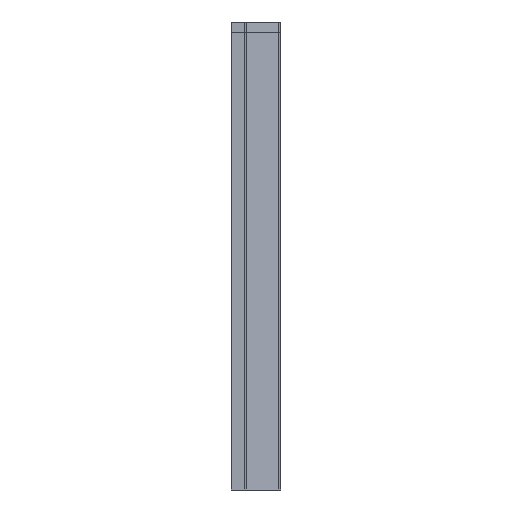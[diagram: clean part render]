
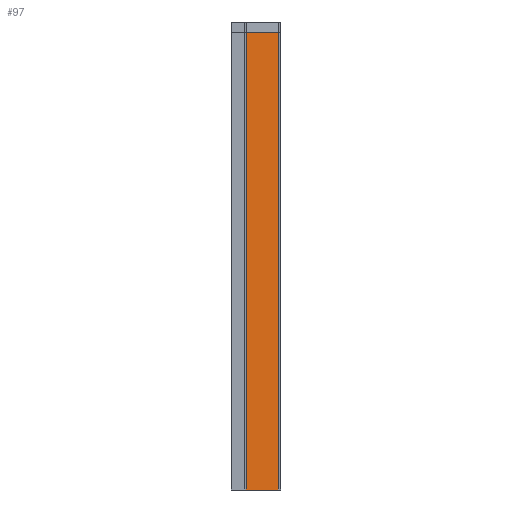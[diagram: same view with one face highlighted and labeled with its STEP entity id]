
A CAD part, left-side view. The second image highlights one B-rep face of the part: STEP entity #97.
In plain terms, the highlighted planar face has unit normal (-0.731, -0.682, 0).
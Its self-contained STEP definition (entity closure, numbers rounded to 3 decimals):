
#97=ADVANCED_FACE('',(#181),#1505,.T.);
#181=FACE_OUTER_BOUND('',#273,.T.);
#273=EDGE_LOOP('',(#575,#576,#577,#578));
#575=ORIENTED_EDGE('',*,*,#932,.T.);
#576=ORIENTED_EDGE('',*,*,#933,.T.);
#577=ORIENTED_EDGE('',*,*,#934,.F.);
#578=ORIENTED_EDGE('',*,*,#930,.F.);
#930=EDGE_CURVE('',#1367,#1368,#1170,.T.);
#932=EDGE_CURVE('',#1367,#1369,#1172,.T.);
#933=EDGE_CURVE('',#1369,#1370,#1173,.T.);
#934=EDGE_CURVE('',#1368,#1370,#1174,.T.);
#1170=(
BOUNDED_CURVE()
B_SPLINE_CURVE(1,(#2688,#2689),.UNSPECIFIED.,.F.,.F.)
B_SPLINE_CURVE_WITH_KNOTS((2,2),(0.,305.),.UNSPECIFIED.)
CURVE()
GEOMETRIC_REPRESENTATION_ITEM()
RATIONAL_B_SPLINE_CURVE((1.,1.))
REPRESENTATION_ITEM('')
);
#1172=(
BOUNDED_CURVE()
B_SPLINE_CURVE(2,(#2693,#2694,#2695),.UNSPECIFIED.,.F.,.F.)
B_SPLINE_CURVE_WITH_KNOTS((3,3),(-497.354,-468.276),
 .UNSPECIFIED.)
CURVE()
GEOMETRIC_REPRESENTATION_ITEM()
RATIONAL_B_SPLINE_CURVE((1.,1.,1.))
REPRESENTATION_ITEM('')
);
#1173=(
BOUNDED_CURVE()
B_SPLINE_CURVE(1,(#2696,#2697),.UNSPECIFIED.,.F.,.F.)
B_SPLINE_CURVE_WITH_KNOTS((2,2),(0.,305.),.UNSPECIFIED.)
CURVE()
GEOMETRIC_REPRESENTATION_ITEM()
RATIONAL_B_SPLINE_CURVE((1.,1.))
REPRESENTATION_ITEM('')
);
#1174=(
BOUNDED_CURVE()
B_SPLINE_CURVE(2,(#2698,#2699,#2700),.UNSPECIFIED.,.F.,.F.)
B_SPLINE_CURVE_WITH_KNOTS((3,3),(-497.354,-468.276),
 .UNSPECIFIED.)
CURVE()
GEOMETRIC_REPRESENTATION_ITEM()
RATIONAL_B_SPLINE_CURVE((1.,1.,1.))
REPRESENTATION_ITEM('')
);
#1367=VERTEX_POINT('',#2587);
#1368=VERTEX_POINT('',#2588);
#1369=VERTEX_POINT('',#2589);
#1370=VERTEX_POINT('',#2590);
#1505=PLANE('',#1567);
#1567=AXIS2_PLACEMENT_3D('',#2361,#1612,$);
#1612=DIRECTION('',(-0.731,-0.682,0.));
#2361=CARTESIAN_POINT('',(27436.594,-8593.922,0.));
#2587=CARTESIAN_POINT('',(27436.594,-8593.922,0.));
#2588=CARTESIAN_POINT('',(27436.594,-8593.922,305.));
#2589=CARTESIAN_POINT('',(27456.654,-8615.429,0.));
#2590=CARTESIAN_POINT('',(27456.654,-8615.429,305.));
#2688=CARTESIAN_POINT('',(27436.594,-8593.922,0.));
#2689=CARTESIAN_POINT('',(27436.594,-8593.922,305.));
#2693=CARTESIAN_POINT('',(27436.594,-8593.922,0.));
#2694=CARTESIAN_POINT('',(27446.624,-8604.676,0.));
#2695=CARTESIAN_POINT('',(27456.654,-8615.429,0.));
#2696=CARTESIAN_POINT('',(27456.654,-8615.429,0.));
#2697=CARTESIAN_POINT('',(27456.654,-8615.429,305.));
#2698=CARTESIAN_POINT('',(27436.594,-8593.922,305.));
#2699=CARTESIAN_POINT('',(27446.624,-8604.676,305.));
#2700=CARTESIAN_POINT('',(27456.654,-8615.429,305.));
